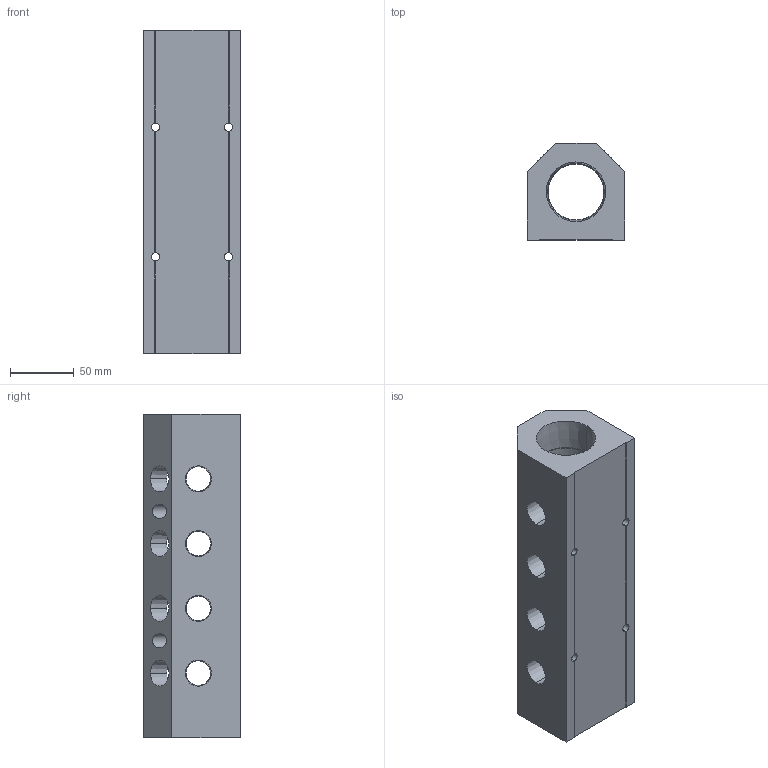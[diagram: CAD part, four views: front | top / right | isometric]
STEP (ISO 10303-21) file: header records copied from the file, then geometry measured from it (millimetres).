
FILE_DESCRIPTION (( 'STEP AP214' ), '1' );
FILE_NAME ('ALM4ABCDE-N8N24-254B.step', '2022-02-07T09:29:10', ( '' ), ( '' ), 'SwSTEP 2.0', 'SolidWorks 2020', '' );
FILE_SCHEMA (( 'AUTOMOTIVE_DESIGN' ));
Length unit declared in the file: millimetre
Products named in the file (1): ALM4ABCDE-N8N24-254B
Bounding box: 76.2 x 76.2 x 254 mm (x, y, z)
Volume: 832970.5 mm3; surface area: 128326 mm2
Topology: 1 solids, 1 shells, 396 faces, 1114 edges, 740 vertices
Faces by surface type: plane 256, bspline 74, cone 44, cylinder 22
Entity records: 22925 total; most frequent: CARTESIAN_POINT 9517, ORIENTED_EDGE 2228, DIRECTION 1568, EDGE_CURVE 1114, LINE 770, VECTOR 770, VERTEX_POINT 740, EDGE_LOOP 466
